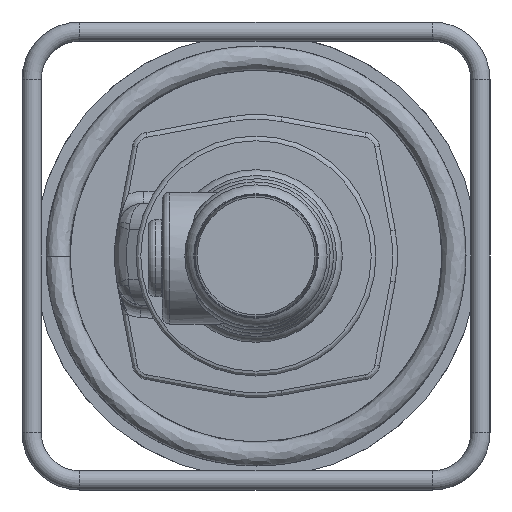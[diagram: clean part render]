
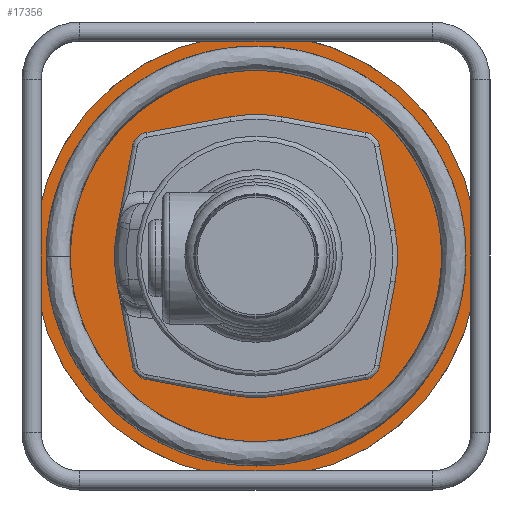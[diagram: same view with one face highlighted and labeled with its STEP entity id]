
A CAD part, left-side view. The second image highlights one B-rep face of the part: STEP entity #17356.
In plain terms, the highlighted planar face has unit normal (-1, 0, 0).
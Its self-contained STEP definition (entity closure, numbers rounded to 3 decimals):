
#117=FACE_BOUND('',#5549,.T.);
#1615=PLANE('',#18346);
#2621=LINE('',#38747,#3613);
#2622=LINE('',#38751,#3614);
#2623=LINE('',#38755,#3615);
#2624=LINE('',#38759,#3616);
#2625=LINE('',#38763,#3617);
#2626=LINE('',#38767,#3618);
#2627=LINE('',#38771,#3619);
#2628=LINE('',#38775,#3620);
#3613=VECTOR('',#21224,10.);
#3614=VECTOR('',#21227,10.);
#3615=VECTOR('',#21230,10.);
#3616=VECTOR('',#21233,10.);
#3617=VECTOR('',#21236,10.);
#3618=VECTOR('',#21239,10.);
#3619=VECTOR('',#21242,10.);
#3620=VECTOR('',#21245,10.);
#4527=FACE_OUTER_BOUND('',#5548,.T.);
#5548=EDGE_LOOP('',(#14427));
#5549=EDGE_LOOP('',(#14428,#14429,#14430,#14431,#14432,#14433,#14434,#14435,
#14436,#14437,#14438,#14439,#14440,#14441,#14442,#14443));
#6077=CIRCLE('',#18324,92.5);
#6079=CIRCLE('',#18347,7.);
#6080=CIRCLE('',#18348,59.);
#6081=CIRCLE('',#18349,7.);
#6082=CIRCLE('',#18350,59.);
#6083=CIRCLE('',#18351,7.);
#6084=CIRCLE('',#18352,59.);
#6085=CIRCLE('',#18353,7.);
#6086=CIRCLE('',#18354,59.);
#7721=VERTEX_POINT('',#38720);
#7722=VERTEX_POINT('',#38745);
#7723=VERTEX_POINT('',#38746);
#7724=VERTEX_POINT('',#38748);
#7725=VERTEX_POINT('',#38750);
#7726=VERTEX_POINT('',#38752);
#7727=VERTEX_POINT('',#38754);
#7728=VERTEX_POINT('',#38756);
#7729=VERTEX_POINT('',#38758);
#7730=VERTEX_POINT('',#38760);
#7731=VERTEX_POINT('',#38762);
#7732=VERTEX_POINT('',#38764);
#7733=VERTEX_POINT('',#38766);
#7734=VERTEX_POINT('',#38768);
#7735=VERTEX_POINT('',#38770);
#7736=VERTEX_POINT('',#38772);
#7737=VERTEX_POINT('',#38774);
#9989=EDGE_CURVE('',#7721,#7721,#6077,.T.);
#9991=EDGE_CURVE('',#7722,#7723,#2621,.T.);
#9992=EDGE_CURVE('',#7722,#7724,#6079,.T.);
#9993=EDGE_CURVE('',#7724,#7725,#2622,.T.);
#9994=EDGE_CURVE('',#7725,#7726,#6080,.T.);
#9995=EDGE_CURVE('',#7727,#7726,#2623,.T.);
#9996=EDGE_CURVE('',#7727,#7728,#6081,.T.);
#9997=EDGE_CURVE('',#7728,#7729,#2624,.T.);
#9998=EDGE_CURVE('',#7729,#7730,#6082,.T.);
#9999=EDGE_CURVE('',#7731,#7730,#2625,.T.);
#10000=EDGE_CURVE('',#7731,#7732,#6083,.T.);
#10001=EDGE_CURVE('',#7732,#7733,#2626,.T.);
#10002=EDGE_CURVE('',#7733,#7734,#6084,.T.);
#10003=EDGE_CURVE('',#7735,#7734,#2627,.T.);
#10004=EDGE_CURVE('',#7735,#7736,#6085,.T.);
#10005=EDGE_CURVE('',#7736,#7737,#2628,.T.);
#10006=EDGE_CURVE('',#7737,#7723,#6086,.T.);
#14427=ORIENTED_EDGE('',*,*,#9989,.F.);
#14428=ORIENTED_EDGE('',*,*,#9991,.F.);
#14429=ORIENTED_EDGE('',*,*,#9992,.T.);
#14430=ORIENTED_EDGE('',*,*,#9993,.T.);
#14431=ORIENTED_EDGE('',*,*,#9994,.T.);
#14432=ORIENTED_EDGE('',*,*,#9995,.F.);
#14433=ORIENTED_EDGE('',*,*,#9996,.T.);
#14434=ORIENTED_EDGE('',*,*,#9997,.T.);
#14435=ORIENTED_EDGE('',*,*,#9998,.T.);
#14436=ORIENTED_EDGE('',*,*,#9999,.F.);
#14437=ORIENTED_EDGE('',*,*,#10000,.T.);
#14438=ORIENTED_EDGE('',*,*,#10001,.T.);
#14439=ORIENTED_EDGE('',*,*,#10002,.T.);
#14440=ORIENTED_EDGE('',*,*,#10003,.F.);
#14441=ORIENTED_EDGE('',*,*,#10004,.T.);
#14442=ORIENTED_EDGE('',*,*,#10005,.T.);
#14443=ORIENTED_EDGE('',*,*,#10006,.T.);
#17356=ADVANCED_FACE('',(#4527,#117),#1615,.T.);
#18324=AXIS2_PLACEMENT_3D('',#38722,#21178,#21179);
#18346=AXIS2_PLACEMENT_3D('',#38744,#21222,#21223);
#18347=AXIS2_PLACEMENT_3D('',#38749,#21225,#21226);
#18348=AXIS2_PLACEMENT_3D('',#38753,#21228,#21229);
#18349=AXIS2_PLACEMENT_3D('',#38757,#21231,#21232);
#18350=AXIS2_PLACEMENT_3D('',#38761,#21234,#21235);
#18351=AXIS2_PLACEMENT_3D('',#38765,#21237,#21238);
#18352=AXIS2_PLACEMENT_3D('',#38769,#21240,#21241);
#18353=AXIS2_PLACEMENT_3D('',#38773,#21243,#21244);
#18354=AXIS2_PLACEMENT_3D('',#38776,#21246,#21247);
#21178=DIRECTION('center_axis',(1.,0.,0.));
#21179=DIRECTION('ref_axis',(0.,0.644,0.765));
#21222=DIRECTION('center_axis',(-1.,0.,0.));
#21223=DIRECTION('ref_axis',(0.,0.644,0.765));
#21224=DIRECTION('',(0.,0.184,-0.983));
#21225=DIRECTION('center_axis',(1.,0.,0.));
#21226=DIRECTION('ref_axis',(0.,0.809,-0.588));
#21227=DIRECTION('',(0.,-0.983,0.184));
#21228=DIRECTION('center_axis',(1.,0.,0.));
#21229=DIRECTION('ref_axis',(0.,0.,
1.));
#21230=DIRECTION('',(0.,0.983,0.184));
#21231=DIRECTION('center_axis',(1.,0.,0.));
#21232=DIRECTION('ref_axis',(0.,0.588,0.809));
#21233=DIRECTION('',(0.,-0.184,-0.983));
#21234=DIRECTION('center_axis',(1.,0.,0.));
#21235=DIRECTION('ref_axis',(0.,0.,
1.));
#21236=DIRECTION('',(0.,-0.184,0.983));
#21237=DIRECTION('center_axis',(1.,0.,0.));
#21238=DIRECTION('ref_axis',(0.,-0.809,0.588));
#21239=DIRECTION('',(0.,0.983,-0.184));
#21240=DIRECTION('center_axis',(1.,0.,0.));
#21241=DIRECTION('ref_axis',(0.,0.,
1.));
#21242=DIRECTION('',(0.,-0.983,-0.184));
#21243=DIRECTION('center_axis',(1.,0.,0.));
#21244=DIRECTION('ref_axis',(0.,-0.588,-0.809));
#21245=DIRECTION('',(0.,0.184,0.983));
#21246=DIRECTION('center_axis',(1.,0.,0.));
#21247=DIRECTION('ref_axis',(0.,0.,
1.));
#38720=CARTESIAN_POINT('',(0.,-70.782,59.55));
#38722=CARTESIAN_POINT('Origin',(0.,0.,0.));
#38744=CARTESIAN_POINT('Origin',(0.,70.782,
-59.55));
#38745=CARTESIAN_POINT('',(0.,51.428,45.839));
#38746=CARTESIAN_POINT('',(0.,57.988,10.882));
#38747=CARTESIAN_POINT('',(0.,51.428,45.839));
#38748=CARTESIAN_POINT('',(0.,45.839,51.428));
#38749=CARTESIAN_POINT('Origin',(0.,44.548,
44.548));
#38750=CARTESIAN_POINT('',(0.,10.882,57.988));
#38751=CARTESIAN_POINT('',(0.,45.839,51.428));
#38752=CARTESIAN_POINT('',(0.,-10.882,57.988));
#38753=CARTESIAN_POINT('Origin',(0.,0.,
0.));
#38754=CARTESIAN_POINT('',(0.,-45.839,51.428));
#38755=CARTESIAN_POINT('',(0.,-45.839,51.428));
#38756=CARTESIAN_POINT('',(0.,-51.428,45.839));
#38757=CARTESIAN_POINT('Origin',(0.,-44.548,
44.548));
#38758=CARTESIAN_POINT('',(0.,-57.988,10.882));
#38759=CARTESIAN_POINT('',(0.,-51.428,45.839));
#38760=CARTESIAN_POINT('',(0.,-57.988,-10.882));
#38761=CARTESIAN_POINT('Origin',(0.,0.,
0.));
#38762=CARTESIAN_POINT('',(0.,-51.428,-45.839));
#38763=CARTESIAN_POINT('',(0.,-51.428,-45.839));
#38764=CARTESIAN_POINT('',(0.,-45.839,-51.428));
#38765=CARTESIAN_POINT('Origin',(0.,-44.548,
-44.548));
#38766=CARTESIAN_POINT('',(0.,-10.882,-57.988));
#38767=CARTESIAN_POINT('',(0.,-45.839,-51.428));
#38768=CARTESIAN_POINT('',(0.,10.882,-57.988));
#38769=CARTESIAN_POINT('Origin',(0.,0.,
0.));
#38770=CARTESIAN_POINT('',(0.,45.839,-51.428));
#38771=CARTESIAN_POINT('',(0.,45.839,-51.428));
#38772=CARTESIAN_POINT('',(0.,51.428,-45.839));
#38773=CARTESIAN_POINT('Origin',(0.,44.548,
-44.548));
#38774=CARTESIAN_POINT('',(0.,57.988,-10.882));
#38775=CARTESIAN_POINT('',(0.,51.428,-45.839));
#38776=CARTESIAN_POINT('Origin',(0.,0.,
0.));
